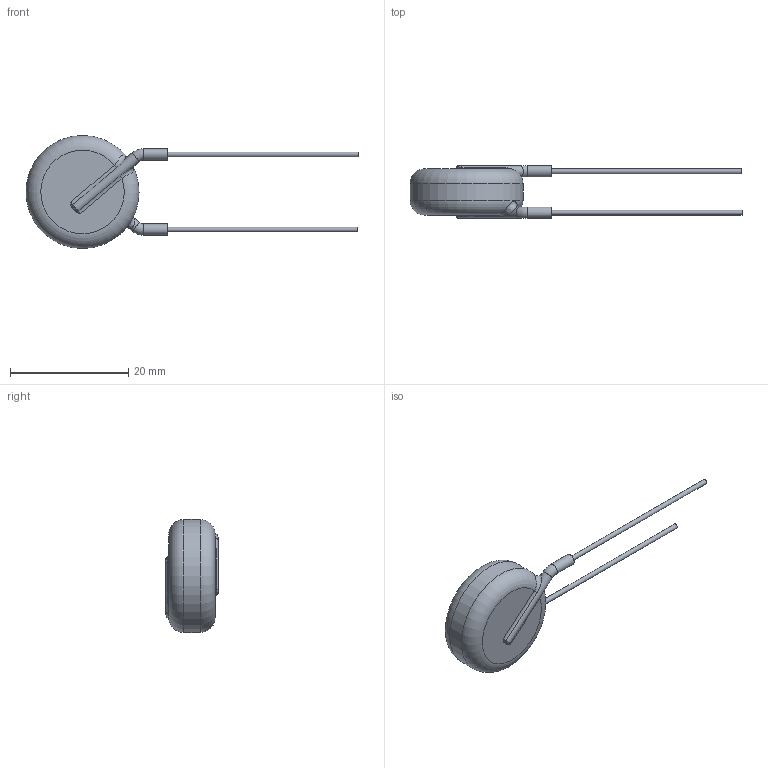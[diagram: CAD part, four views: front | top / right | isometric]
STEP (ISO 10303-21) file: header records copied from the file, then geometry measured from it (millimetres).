
FILE_DESCRIPTION((''),'2;1');
FILE_NAME('I:\Marketing\M6t1\3D-Models\Zchng-Werk-3\Upload for homepage\Ceramite\Z5U-10kV\615R100GAD25\615R100GAD25.stp','2015-08-28T08:59:10',(''),(''),'Autodesk Inventor 2013','Autodesk Inventor 2013','');
FILE_SCHEMA(('AUTOMOTIVE_DESIGN { 1 0 10303 214 1 1 1 1 }'));
Length unit declared in the file: centimetre
Products named in the file (1): 615R100GAD25
Bounding box: 56.1 x 8.9 x 19.1 mm (x, y, z)
Volume: 2180.8 mm3; surface area: 1167.5 mm2
Topology: 1 solids, 1 shells, 41 faces, 92 edges, 51 vertices
Faces by surface type: cylinder 13, bspline 10, torus 10, plane 8
Full cylindrical faces by diameter (mm): 0.81 x2, 1.9 x4, 19.1 x1
Entity records: 1499 total; most frequent: CARTESIAN_POINT 666, DIRECTION 152, ORIENTED_EDGE 140, AXIS2_PLACEMENT_3D 70, EDGE_CURVE 70, EDGE_LOOP 54, VERTEX_POINT 44, STYLED_ITEM 42
